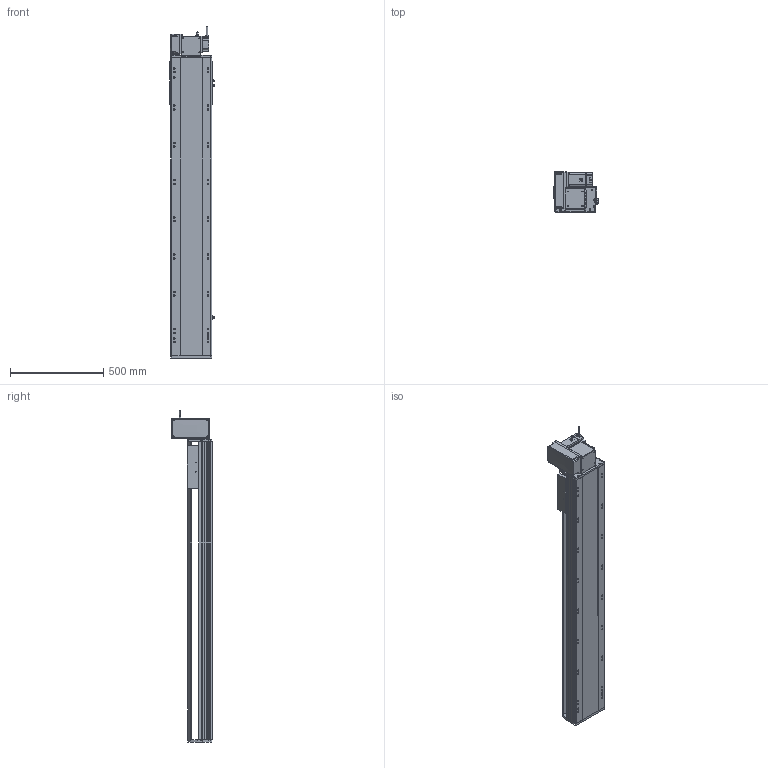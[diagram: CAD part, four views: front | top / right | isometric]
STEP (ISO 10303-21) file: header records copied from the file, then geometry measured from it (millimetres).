
FILE_DESCRIPTION (( 'STEP AP214' ), '1' );
FILE_NAME ('RTB22S-XX-1250-LW-M75-C4.STEP', '2025-12-12T05:56:35', ( '' ), ( '' ), 'SwSTEP 2.0', 'SolidWorks 2018', '' );
FILE_SCHEMA (( 'AUTOMOTIVE_DESIGN' ));
Length unit declared in the file: millimetre
Products named in the file (14): RTB22S-L-011菁釱^RTB22S-XX-XX-LW-M75-C4; RTB22S-GY-018P^RTB22S-LW-々湍釱蚾饜_RTB22S-XX-XX-LW-M75-C4; RTB22S-GY-005P^RTB22S-LW-々湍釱蚾饜_RTB22S-XX-XX-LW-M75-C4; OMRON EE-SX672 传感器^RTB22S-XX-XX-LW-M75-C4; RTB22S-LW-々湍釱蚾饜^RTB22S-XX-XX-LW-M75-C4; RTB22S-XX-1250-LW-M75-C4; RTH22-GY-013外置感应片^RTB22S-XX-XX-LW-M75-C4; RTB22S-GY-007奻裔^RTB22S-XX-XX-LW-M75-C4; RTB22S-GY-014--々湍釱^RTB22S-LW-々湍釱蚾饜_RTB22S-XX-XX-LW-M75-C4; RTB22S-GY-008-M75--萇儂啣^RTB22S-LW-々湍釱蚾饜_RTB22S-XX-XX-LW-M75-C4; RTB22S-GY-017P^RTB22S-LW-々湍釱蚾饜_RTB22S-XX-XX-LW-M75-C4; RTB22S-L-004賑釱^RTB22S-XX-XX-LW-M75-C4; 750W萇儂^RTB22S-XX-XX-LW-M75-C4; RTB22S-GY-001耜裔^RTB22S-XX-XX-LW-M75-C4
Assembly tree (16 placements, depth 3):
  RTB22S-XX-1250-LW-M75-C4
    RTB22S-L-011菁釱^RTB22S-XX-XX-LW-M75-C4
    RTB22S-GY-001耜裔^RTB22S-XX-XX-LW-M75-C4
    750W萇儂^RTB22S-XX-XX-LW-M75-C4
    RTB22S-GY-007奻裔^RTB22S-XX-XX-LW-M75-C4
    RTB22S-L-004賑釱^RTB22S-XX-XX-LW-M75-C4
    RTH22-GY-013外置感应片^RTB22S-XX-XX-LW-M75-C4
    OMRON EE-SX672 传感器^RTB22S-XX-XX-LW-M75-C4  x3
    RTB22S-LW-々湍釱蚾饜^RTB22S-XX-XX-LW-M75-C4
      RTB22S-GY-014--々湍釱^RTB22S-LW-々湍釱蚾饜_RTB22S-XX-XX-LW-M75-C4
      RTB22S-GY-017P^RTB22S-LW-々湍釱蚾饜_RTB22S-XX-XX-LW-M75-C4  x2
      RTB22S-GY-005P^RTB22S-LW-々湍釱蚾饜_RTB22S-XX-XX-LW-M75-C4
      RTB22S-GY-008-M75--萇儂啣^RTB22S-LW-々湍釱蚾饜_RTB22S-XX-XX-LW-M75-C4
      RTB22S-GY-018P^RTB22S-LW-々湍釱蚾饜_RTB22S-XX-XX-LW-M75-C4
Bounding box: 238.5 x 215.5 x 1782.2 mm (x, y, z)
Volume: 24197802.2 mm3; surface area: 2508768.3 mm2
Topology: 15 solids, 15 shells, 2001 faces, 5436 edges, 3482 vertices
Faces by surface type: plane 917, cylinder 634, bspline 296, cone 142, sphere 8, torus 4
Entity records: 53426 total; most frequent: CARTESIAN_POINT 15320, ORIENTED_EDGE 7652, DIRECTION 7380, EDGE_CURVE 3826, AXIS2_PLACEMENT_3D 2610, VERTEX_POINT 2486, VECTOR 2160, LINE 2160
